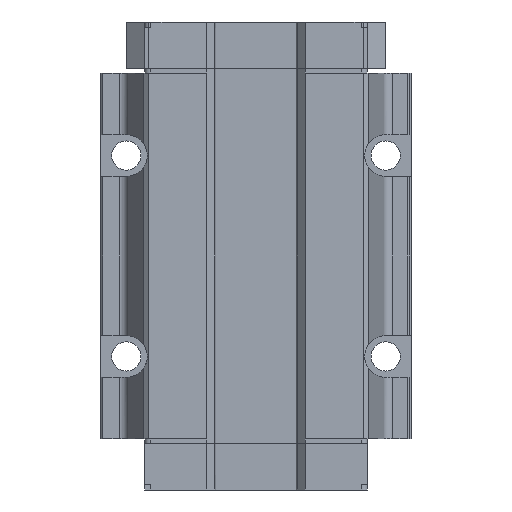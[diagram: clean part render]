
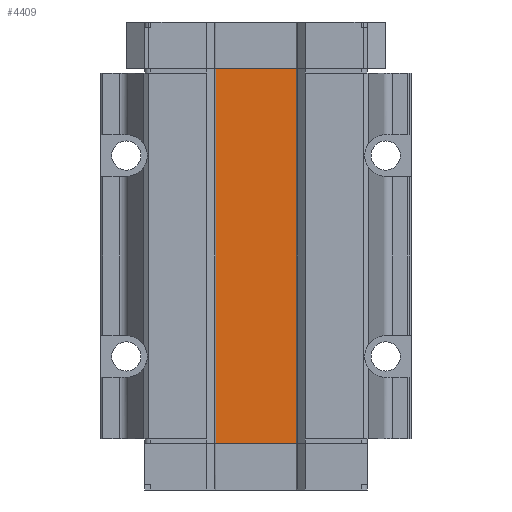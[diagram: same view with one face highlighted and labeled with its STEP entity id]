
A CAD part, front view. The second image highlights one B-rep face of the part: STEP entity #4409.
In plain terms, the highlighted planar face has unit normal (0, -1, 0).
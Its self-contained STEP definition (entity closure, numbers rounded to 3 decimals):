
#38 = CARTESIAN_POINT ( 'NONE',  ( -23.338, 0., 102.62 ) ) ;
#354 = CARTESIAN_POINT ( 'NONE',  ( 7.779, -0.002, -102.62 ) ) ;
#983 = CARTESIAN_POINT ( 'NONE',  ( 23.338, -0.001, -102.62 ) ) ;
#1749 = EDGE_CURVE ( 'NONE', #7369, #9800, #6032, .T. ) ;
#1930 = CARTESIAN_POINT ( 'NONE',  ( 7.779, 0., 102.62 ) ) ;
#2160 = AXIS2_PLACEMENT_3D ( 'NONE', #2999, #9523, #4663 ) ;
#2897 = CARTESIAN_POINT ( 'NONE',  ( -7.779, -0.002, -102.62 ) ) ;
#2946 = EDGE_CURVE ( 'NONE', #7369, #8219, #8843, .T. ) ;
#2999 = CARTESIAN_POINT ( 'NONE',  ( -23., 0., -100.1 ) ) ;
#3619 = VECTOR ( 'NONE', #10248, 1000. ) ;
#3821 = DIRECTION ( 'NONE',  ( 0., 0., 1. ) ) ;
#3860 = CARTESIAN_POINT ( 'NONE',  ( 23.338, 0., 102.62 ) ) ;
#4335 = EDGE_LOOP ( 'NONE', ( #5331, #5988, #10473, #9137 ) ) ;
#4409 = ADVANCED_FACE ( 'NONE', ( #8758 ), #8738, .T. ) ;
#4663 = DIRECTION ( 'NONE',  ( 0., 0., -1. ) ) ;
#5308 = CARTESIAN_POINT ( 'NONE',  ( -23.338, 0., 102.62 ) ) ;
#5331 = ORIENTED_EDGE ( 'NONE', *, *, #7394, .F. ) ;
#5383 = VECTOR ( 'NONE', #3821, 1000. ) ;
#5988 = ORIENTED_EDGE ( 'NONE', *, *, #6281, .T. ) ;
#6032 = LINE ( 'NONE', #3860, #5383 ) ;
#6061 = LINE ( 'NONE', #9418, #3619 ) ;
#6100 = CARTESIAN_POINT ( 'NONE',  ( 23.338, 0., 102.62 ) ) ;
#6281 = EDGE_CURVE ( 'NONE', #7366, #8219, #6061, .T. ) ;
#7366 = VERTEX_POINT ( 'NONE', #38 ) ;
#7369 = VERTEX_POINT ( 'NONE', #983 ) ;
#7394 = EDGE_CURVE ( 'NONE', #7366, #9800, #10447, .T. ) ;
#7559 = CARTESIAN_POINT ( 'NONE',  ( -23.338, -0.001, -102.62 ) ) ;
#7778 = CARTESIAN_POINT ( 'NONE',  ( 23.338, 0., 102.62 ) ) ;
#8219 = VERTEX_POINT ( 'NONE', #7559 ) ;
#8738 = PLANE ( 'NONE',  #2160 ) ;
#8758 = FACE_OUTER_BOUND ( 'NONE', #4335, .T. ) ;
#8843 = B_SPLINE_CURVE_WITH_KNOTS ( 'NONE', 3,
 ( #10726, #354, #2897, #10467 ),
 .UNSPECIFIED., .F., .F.,
 ( 4, 4 ),
 ( 0.039, 0.961 ),
 .UNSPECIFIED. ) ;
#9137 = ORIENTED_EDGE ( 'NONE', *, *, #1749, .T. ) ;
#9418 = CARTESIAN_POINT ( 'NONE',  ( -23.338, 0., -102.62 ) ) ;
#9523 = DIRECTION ( 'NONE',  ( 0., -1., 0. ) ) ;
#9800 = VERTEX_POINT ( 'NONE', #6100 ) ;
#10151 = CARTESIAN_POINT ( 'NONE',  ( -7.779, 0., 102.62 ) ) ;
#10248 = DIRECTION ( 'NONE',  ( 0., 0., -1. ) ) ;
#10447 = B_SPLINE_CURVE_WITH_KNOTS ( 'NONE', 3,
 ( #5308, #10151, #1930, #7778 ),
 .UNSPECIFIED., .F., .F.,
 ( 4, 4 ),
 ( 0.039, 0.961 ),
 .UNSPECIFIED. ) ;
#10467 = CARTESIAN_POINT ( 'NONE',  ( -23.338, -0.001, -102.62 ) ) ;
#10473 = ORIENTED_EDGE ( 'NONE', *, *, #2946, .F. ) ;
#10726 = CARTESIAN_POINT ( 'NONE',  ( 23.338, -0.001, -102.62 ) ) ;
